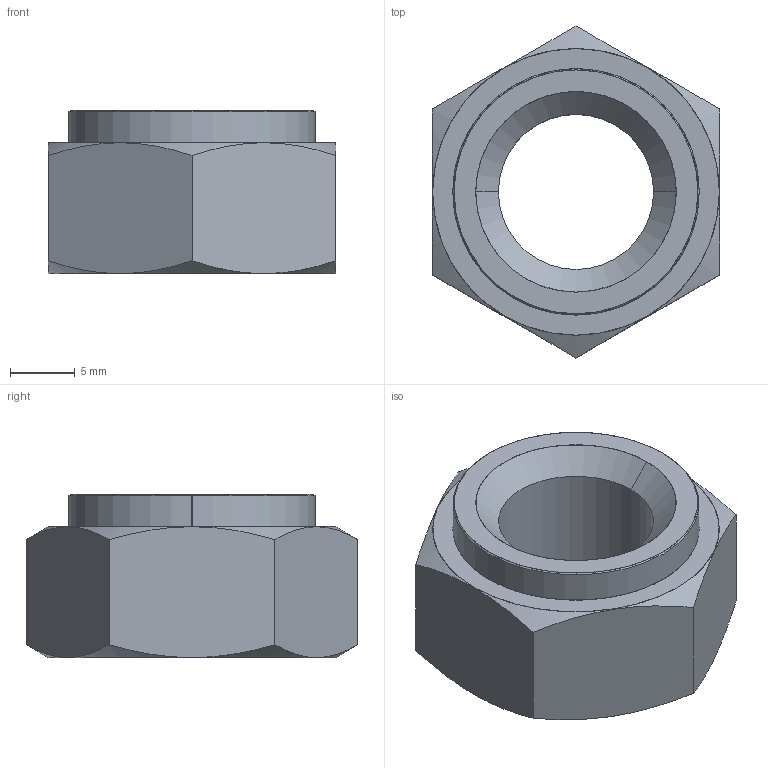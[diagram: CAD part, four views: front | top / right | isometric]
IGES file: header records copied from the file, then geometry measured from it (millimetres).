
Start section: SolidWorks IGES file using analytic representation for surfaces
Global section: file name: C:\Users\liam_\OneDrive\Desktop\Work\Mat Davis Pending 20181125\automotion\P SERIES\P0827.ZP_v2\P0827.ZP_v2_20181231_IGES\P0827.100-14G-ZP.igs; native system: SolidWorks 2017; preprocessor: SolidWorks 2017; author: liam_; date: 181231.111050; units: millimetre
Bounding box: 22.22 x 25.66 x 12.66 mm (x, y, z)
Surface area: 1922.9 mm2 (no closed solid volume)
Topology: 0 solids, 0 shells, 23 faces, 448 edges, 448 vertices
Faces by surface type: revolution 14, bspline 9
